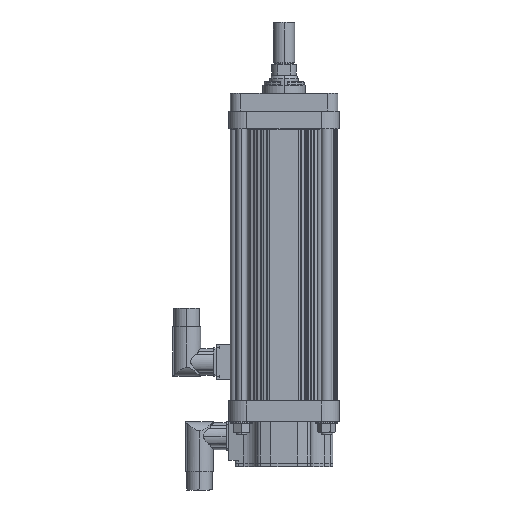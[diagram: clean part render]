
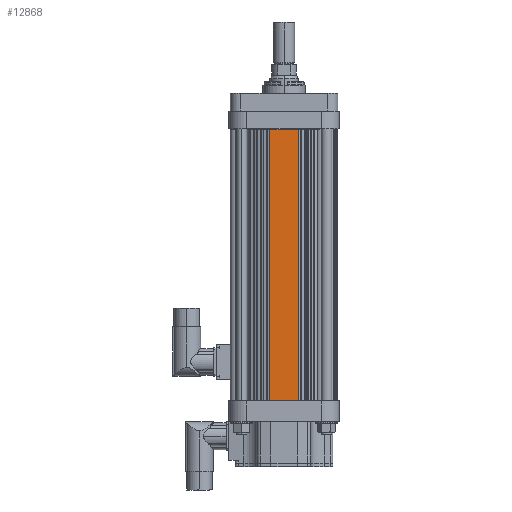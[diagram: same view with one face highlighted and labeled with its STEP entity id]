
A CAD part, left-side view. The second image highlights one B-rep face of the part: STEP entity #12868.
In plain terms, the highlighted planar face has unit normal (-1, 0, 0) as drawn and (1, 0, 0) by its records, which use the part's own axes.
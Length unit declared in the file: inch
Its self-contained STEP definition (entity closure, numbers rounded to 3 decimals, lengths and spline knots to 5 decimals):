
#12078 = EDGE_CURVE ( 'NONE', #12133, #12134, #17222, .T. ) ;
#12133 = VERTEX_POINT ( 'NONE', #17847 ) ;
#12134 = VERTEX_POINT ( 'NONE', #17846 ) ;
#12254 = VERTEX_POINT ( 'NONE', #17933 ) ;
#12256 = EDGE_CURVE ( 'NONE', #12286, #12254, #18001, .T. ) ;
#12286 = VERTEX_POINT ( 'NONE', #18094 ) ;
#12754 = EDGE_LOOP ( 'NONE', ( #12755, #12756, #12758, #12771 ) ) ;
#12755 = ORIENTED_EDGE ( 'NONE', *, *, #12078, .F. ) ;
#12756 = ORIENTED_EDGE ( 'NONE', *, *, #12757, .F. ) ;
#12757 = EDGE_CURVE ( 'NONE', #12286, #12133, #18819, .T. ) ;
#12758 = ORIENTED_EDGE ( 'NONE', *, *, #12256, .T. ) ;
#12771 = ORIENTED_EDGE ( 'NONE', *, *, #12865, .T. ) ;
#12865 = EDGE_CURVE ( 'NONE', #12254, #12134, #19305, .T. ) ;
#12868 = ADVANCED_FACE ( 'NONE', ( #19301 ), #19291, .T. ) ;
#17219 = DIRECTION ( 'NONE',  ( 0., -1., 0. ) ) ;
#17220 = VECTOR ( 'NONE', #17219, 39.37008 ) ;
#17221 = CARTESIAN_POINT ( 'NONE',  ( 1.9, 0.5, 0. ) ) ;
#17222 = LINE ( 'NONE', #17221, #17220 ) ;
#17846 = CARTESIAN_POINT ( 'NONE',  ( 1.9, -0.5, 0. ) ) ;
#17847 = CARTESIAN_POINT ( 'NONE',  ( 1.9, 0.5, 0. ) ) ;
#17933 = CARTESIAN_POINT ( 'NONE',  ( 1.9, -0.5, 9.6102 ) ) ;
#17998 = DIRECTION ( 'NONE',  ( 0., -1., 0. ) ) ;
#17999 = VECTOR ( 'NONE', #17998, 39.37008 ) ;
#18000 = CARTESIAN_POINT ( 'NONE',  ( 1.9, 0.5, 9.6102 ) ) ;
#18001 = LINE ( 'NONE', #18000, #17999 ) ;
#18094 = CARTESIAN_POINT ( 'NONE',  ( 1.9, 0.5, 9.6102 ) ) ;
#18816 = DIRECTION ( 'NONE',  ( 0., 0., -1. ) ) ;
#18817 = VECTOR ( 'NONE', #18816, 39.37008 ) ;
#18818 = CARTESIAN_POINT ( 'NONE',  ( 1.9, 0.5, 9.6102 ) ) ;
#18819 = LINE ( 'NONE', #18818, #18817 ) ;
#19287 = DIRECTION ( 'NONE',  ( 0., 1., 0. ) ) ;
#19288 = DIRECTION ( 'NONE',  ( 1., 0., 0. ) ) ;
#19289 = CARTESIAN_POINT ( 'NONE',  ( 1.9, 0.5, 9.6102 ) ) ;
#19290 = AXIS2_PLACEMENT_3D ( 'NONE', #19289, #19288, #19287 ) ;
#19291 = PLANE ( 'NONE',  #19290 ) ;
#19301 = FACE_OUTER_BOUND ( 'NONE', #12754, .T. ) ;
#19302 = DIRECTION ( 'NONE',  ( 0., 0., -1. ) ) ;
#19303 = VECTOR ( 'NONE', #19302, 39.37008 ) ;
#19304 = CARTESIAN_POINT ( 'NONE',  ( 1.9, -0.5, 9.6102 ) ) ;
#19305 = LINE ( 'NONE', #19304, #19303 ) ;
